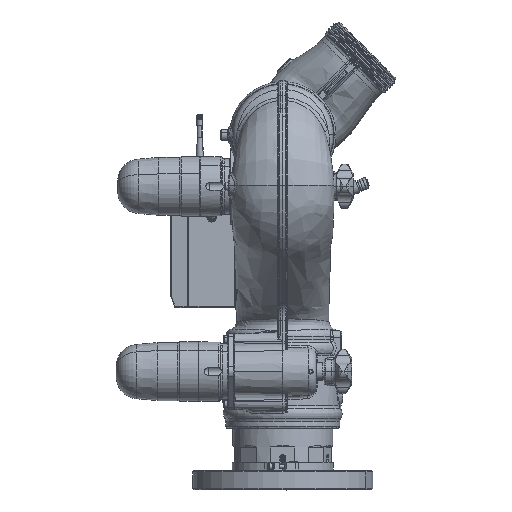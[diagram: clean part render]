
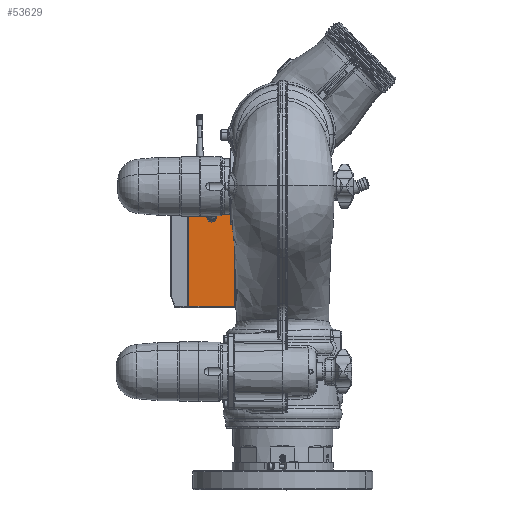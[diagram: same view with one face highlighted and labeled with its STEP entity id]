
A CAD part, top view. The second image highlights one B-rep face of the part: STEP entity #53629.
In plain terms, the highlighted planar face has unit normal (0.014, 0, 1).
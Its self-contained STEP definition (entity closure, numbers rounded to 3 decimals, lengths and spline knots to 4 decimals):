
#3962 = VERTEX_POINT ( 'NONE', #156415 ) ;
#4736 = ORIENTED_EDGE ( 'NONE', *, *, #56537, .T. ) ;
#12700 = CARTESIAN_POINT ( 'NONE',  ( -4.7122, 1.4867, 1.2401 ) ) ;
#34334 = LINE ( 'NONE', #140931, #66034 ) ;
#35984 = ORIENTED_EDGE ( 'NONE', *, *, #79630, .T. ) ;
#41799 = VERTEX_POINT ( 'NONE', #89414 ) ;
#45369 = FACE_OUTER_BOUND ( 'NONE', #195361, .T. ) ;
#50268 = VECTOR ( 'NONE', #184689, 39.3701 ) ;
#53629 = ADVANCED_FACE ( 'NONE', ( #45369 ), #184361, .T. ) ;
#56537 = EDGE_CURVE ( 'NONE', #139910, #3962, #34334, .T. ) ;
#66034 = VECTOR ( 'NONE', #125791, 39.3701 ) ;
#72579 = CARTESIAN_POINT ( 'NONE',  ( -2.3954, 1.4867, 1.2078 ) ) ;
#74289 = LINE ( 'NONE', #12700, #194924 ) ;
#74964 = DIRECTION ( 'NONE',  ( -1., 0., 0.014 ) ) ;
#79630 = EDGE_CURVE ( 'NONE', #41799, #151680, #188128, .T. ) ;
#89414 = CARTESIAN_POINT ( 'NONE',  ( -4.6412, 7.6267, 1.2391 ) ) ;
#107651 = CARTESIAN_POINT ( 'NONE',  ( -4.6412, 1.4867, 1.2391 ) ) ;
#115436 = CARTESIAN_POINT ( 'NONE',  ( -4.7122, 7.6267, 1.2401 ) ) ;
#122448 = EDGE_CURVE ( 'NONE', #139910, #151680, #74289, .T. ) ;
#124471 = CARTESIAN_POINT ( 'NONE',  ( -4.7122, 1.4867, 1.2401 ) ) ;
#125791 = DIRECTION ( 'NONE',  ( 0., 1., 0. ) ) ;
#130474 = EDGE_CURVE ( 'NONE', #3962, #41799, #130689, .T. ) ;
#130689 = LINE ( 'NONE', #115436, #202193 ) ;
#134670 = ORIENTED_EDGE ( 'NONE', *, *, #122448, .F. ) ;
#135629 = AXIS2_PLACEMENT_3D ( 'NONE', #124471, #169237, #74964 ) ;
#136993 = ORIENTED_EDGE ( 'NONE', *, *, #130474, .T. ) ;
#139910 = VERTEX_POINT ( 'NONE', #72579 ) ;
#140931 = CARTESIAN_POINT ( 'NONE',  ( -2.3954, 7.6267, 1.2078 ) ) ;
#151680 = VERTEX_POINT ( 'NONE', #175068 ) ;
#156415 = CARTESIAN_POINT ( 'NONE',  ( -2.3954, 7.6267, 1.2078 ) ) ;
#169237 = DIRECTION ( 'NONE',  ( 0.014, 0., 1. ) ) ;
#175068 = CARTESIAN_POINT ( 'NONE',  ( -4.6412, 1.4867, 1.2391 ) ) ;
#184361 = PLANE ( 'NONE',  #135629 ) ;
#184689 = DIRECTION ( 'NONE',  ( 0., -1., 0. ) ) ;
#186977 = DIRECTION ( 'NONE',  ( -1., 0., 0.014 ) ) ;
#188128 = LINE ( 'NONE', #107651, #50268 ) ;
#193203 = DIRECTION ( 'NONE',  ( -1., 0., 0.014 ) ) ;
#194924 = VECTOR ( 'NONE', #186977, 39.3701 ) ;
#195361 = EDGE_LOOP ( 'NONE', ( #134670, #4736, #136993, #35984 ) ) ;
#202193 = VECTOR ( 'NONE', #193203, 39.3701 ) ;
